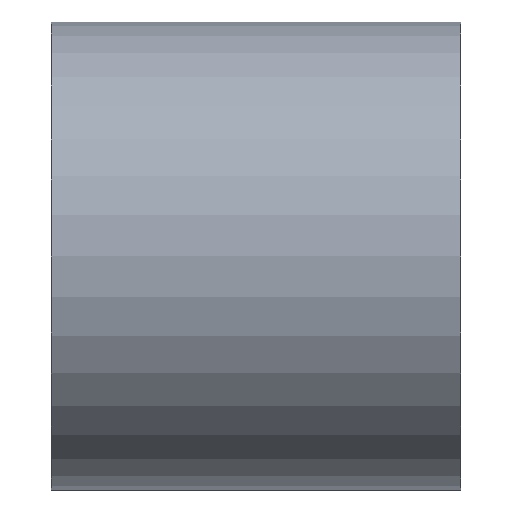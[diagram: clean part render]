
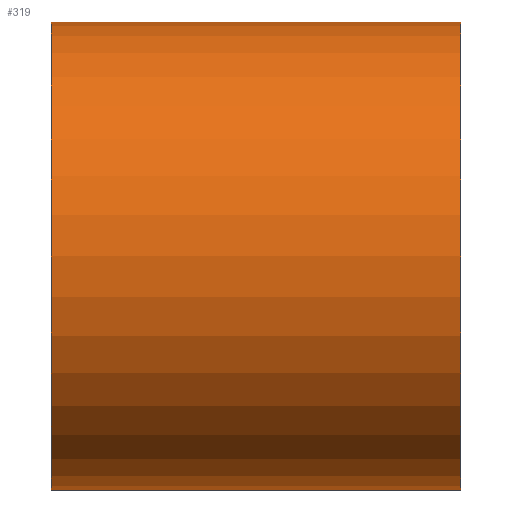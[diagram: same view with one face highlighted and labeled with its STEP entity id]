
A CAD part, front view. The second image highlights one B-rep face of the part: STEP entity #319.
In plain terms, the highlighted cylindrical face has radius 8 mm (diameter 16 mm), a full revolution.
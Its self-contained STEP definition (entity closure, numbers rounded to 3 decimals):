
#319 = ADVANCED_FACE( '', ( #692, #693 ), #694, .T. );
#692 = FACE_OUTER_BOUND( '', #1130, .T. );
#693 = FACE_OUTER_BOUND( '', #1131, .T. );
#694 = CYLINDRICAL_SURFACE( '', #1132, 8. );
#1130 = EDGE_LOOP( '', ( #2494 ) );
#1131 = EDGE_LOOP( '', ( #2495 ) );
#1132 = AXIS2_PLACEMENT_3D( '', #2496, #2497, #2498 );
#2494 = ORIENTED_EDGE( '', *, *, #2917, .T. );
#2495 = ORIENTED_EDGE( '', *, *, #3226, .F. );
#2496 = CARTESIAN_POINT( '', ( 14., 0., 0. ) );
#2497 = DIRECTION( '', ( -1., 0., 0. ) );
#2498 = DIRECTION( '', ( 0., 0., -1. ) );
#2917 = EDGE_CURVE( '', #3507, #3507, #3508, .T. );
#3226 = EDGE_CURVE( '', #3996, #3996, #3997, .T. );
#3507 = VERTEX_POINT( '', #4375 );
#3508 = CIRCLE( '', #4376, 8. );
#3996 = VERTEX_POINT( '', #5100 );
#3997 = CIRCLE( '', #5101, 8. );
#4375 = CARTESIAN_POINT( '', ( 0., 0., -8. ) );
#4376 = AXIS2_PLACEMENT_3D( '', #5481, #5482, #5483 );
#5100 = CARTESIAN_POINT( '', ( 14., 0., -8. ) );
#5101 = AXIS2_PLACEMENT_3D( '', #5936, #5937, #5938 );
#5481 = CARTESIAN_POINT( '', ( 0., 0., 0. ) );
#5482 = DIRECTION( '', ( 1., 0., 0. ) );
#5483 = DIRECTION( '', ( 0., 0., -1. ) );
#5936 = CARTESIAN_POINT( '', ( 14., 0., 0. ) );
#5937 = DIRECTION( '', ( 1., 0., 0. ) );
#5938 = DIRECTION( '', ( 0., 0., -1. ) );
